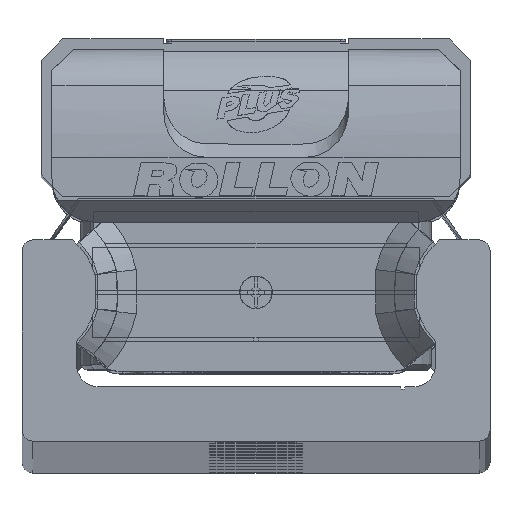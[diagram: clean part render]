
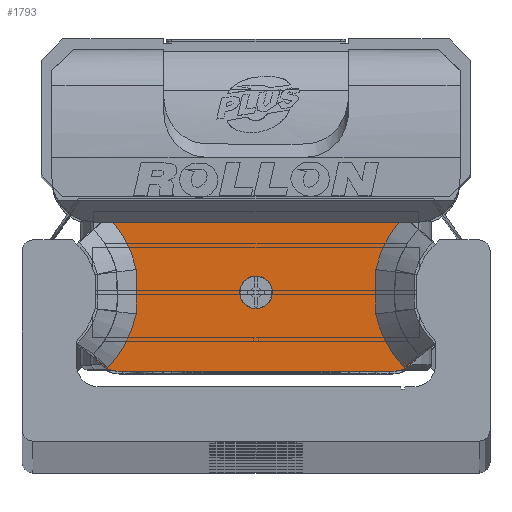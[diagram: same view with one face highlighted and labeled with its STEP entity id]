
A CAD part, top view. The second image highlights one B-rep face of the part: STEP entity #1793.
In plain terms, the highlighted planar face has unit normal (0, 0, 1) as drawn and (0, 0, -1) by its records, which use the part's own axes.
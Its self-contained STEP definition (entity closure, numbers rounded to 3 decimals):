
#1793 = ADVANCED_FACE( '', ( #3872, #3873 ), #3874, .F. );
#3872 = FACE_BOUND( '', #6284, .T. );
#3873 = FACE_OUTER_BOUND( '', #6285, .T. );
#3874 = PLANE( '', #6286 );
#6284 = EDGE_LOOP( '', ( #11210 ) );
#6285 = EDGE_LOOP( '', ( #11211, #11212, #11213, #11214, #11215, #11216, #11217, #11218, #11219, #11220, #11221, #11222 ) );
#6286 = AXIS2_PLACEMENT_3D( '', #11223, #11224, #11225 );
#11210 = ORIENTED_EDGE( '', *, *, #13912, .T. );
#11211 = ORIENTED_EDGE( '', *, *, #14712, .T. );
#11212 = ORIENTED_EDGE( '', *, *, #14028, .F. );
#11213 = ORIENTED_EDGE( '', *, *, #14688, .T. );
#11214 = ORIENTED_EDGE( '', *, *, #14296, .F. );
#11215 = ORIENTED_EDGE( '', *, *, #13768, .T. );
#11216 = ORIENTED_EDGE( '', *, *, #14741, .T. );
#11217 = ORIENTED_EDGE( '', *, *, #14789, .T. );
#11218 = ORIENTED_EDGE( '', *, *, #14790, .T. );
#11219 = ORIENTED_EDGE( '', *, *, #14791, .T. );
#11220 = ORIENTED_EDGE( '', *, *, #14792, .T. );
#11221 = ORIENTED_EDGE( '', *, *, #14745, .T. );
#11222 = ORIENTED_EDGE( '', *, *, #13275, .T. );
#11223 = CARTESIAN_POINT( '', ( 14.9, 7.35, -13.25 ) );
#11224 = DIRECTION( '', ( 0., 0., 1. ) );
#11225 = DIRECTION( '', ( 1., 0., 0. ) );
#13275 = EDGE_CURVE( '', #15907, #15905, #15908, .T. );
#13768 = EDGE_CURVE( '', #15935, #16717, #16719, .T. );
#13912 = EDGE_CURVE( '', #16936, #16936, #16937, .T. );
#14028 = EDGE_CURVE( '', #17102, #16068, #17104, .T. );
#14296 = EDGE_CURVE( '', #15935, #17497, #17498, .T. );
#14688 = EDGE_CURVE( '', #17102, #17497, #18015, .T. );
#14712 = EDGE_CURVE( '', #15905, #16068, #18050, .T. );
#14741 = EDGE_CURVE( '', #16717, #18083, #18085, .T. );
#14745 = EDGE_CURVE( '', #18089, #15907, #18090, .T. );
#14789 = EDGE_CURVE( '', #18083, #18146, #18147, .T. );
#14790 = EDGE_CURVE( '', #18146, #18148, #18149, .T. );
#14791 = EDGE_CURVE( '', #18148, #18150, #18151, .T. );
#14792 = EDGE_CURVE( '', #18150, #18089, #18152, .T. );
#15905 = VERTEX_POINT( '', #19673 );
#15907 = VERTEX_POINT( '', #19676 );
#15908 = B_SPLINE_CURVE_WITH_KNOTS( '', 2, ( #19677, #19678, #19679, #19680, #19681 ), .UNSPECIFIED., .F., .F., ( 3, 2, 3 ), ( 0., 0.5, 1. ), .UNSPECIFIED. );
#15935 = VERTEX_POINT( '', #19722 );
#16068 = VERTEX_POINT( '', #19910 );
#16717 = VERTEX_POINT( '', #20806 );
#16719 = B_SPLINE_CURVE_WITH_KNOTS( '', 1, ( #20809, #20810 ), .UNSPECIFIED., .F., .F., ( 2, 2 ), ( 0., 1. ), .UNSPECIFIED. );
#16936 = VERTEX_POINT( '', #21099 );
#16937 = CIRCLE( '', #21100, 1.5 );
#17102 = VERTEX_POINT( '', #21316 );
#17104 = CIRCLE( '', #21319, 2.5 );
#17497 = VERTEX_POINT( '', #21855 );
#17498 = CIRCLE( '', #21856, 2.5 );
#18015 = LINE( '', #22600, #22601 );
#18050 = B_SPLINE_CURVE_WITH_KNOTS( '', 1, ( #22646, #22647 ), .UNSPECIFIED., .F., .F., ( 2, 2 ), ( 0., 1. ), .UNSPECIFIED. );
#18083 = VERTEX_POINT( '', #22687 );
#18085 = B_SPLINE_CURVE_WITH_KNOTS( '', 2, ( #22690, #22691, #22692, #22693, #22694 ), .UNSPECIFIED., .F., .F., ( 3, 2, 3 ), ( 0., 0.5, 1. ), .UNSPECIFIED. );
#18089 = VERTEX_POINT( '', #22698 );
#18090 = B_SPLINE_CURVE_WITH_KNOTS( '', 2, ( #22699, #22700, #22701 ), .UNSPECIFIED., .F., .F., ( 3, 3 ), ( 0., 1. ), .UNSPECIFIED. );
#18146 = VERTEX_POINT( '', #22777 );
#18147 = B_SPLINE_CURVE_WITH_KNOTS( '', 2, ( #22778, #22779, #22780 ), .UNSPECIFIED., .F., .F., ( 3, 3 ), ( 0., 1. ), .UNSPECIFIED. );
#18148 = VERTEX_POINT( '', #22781 );
#18149 = B_SPLINE_CURVE_WITH_KNOTS( '', 2, ( #22782, #22783, #22784, #22785, #22786 ), .UNSPECIFIED., .F., .F., ( 3, 2, 3 ), ( 0., 0.5, 0.868 ), .UNSPECIFIED. );
#18150 = VERTEX_POINT( '', #22787 );
#18151 = LINE( '', #22788, #22789 );
#18152 = B_SPLINE_CURVE_WITH_KNOTS( '', 2, ( #22790, #22791, #22792, #22793, #22794 ), .UNSPECIFIED., .F., .F., ( 3, 2, 3 ), ( 0.133, 0.5, 1. ), .UNSPECIFIED. );
#19673 = CARTESIAN_POINT( '', ( 13.628, -6.965, -13.25 ) );
#19676 = CARTESIAN_POINT( '', ( 11.012, -2.045, -13.25 ) );
#19677 = CARTESIAN_POINT( '', ( 11.012, -2.045, -13.25 ) );
#19678 = CARTESIAN_POINT( '', ( 11.301, -3.43, -13.25 ) );
#19679 = CARTESIAN_POINT( '', ( 11.972, -4.69, -13.25 ) );
#19680 = CARTESIAN_POINT( '', ( 12.642, -5.95, -13.25 ) );
#19681 = CARTESIAN_POINT( '', ( 13.628, -6.965, -13.25 ) );
#19722 = CARTESIAN_POINT( '', ( -14.904, -5.718, -13.25 ) );
#19910 = CARTESIAN_POINT( '', ( 14.906, -5.717, -13.25 ) );
#20806 = CARTESIAN_POINT( '', ( -13.628, -6.965, -13.25 ) );
#20809 = CARTESIAN_POINT( '', ( -14.915, -5.713, -13.25 ) );
#20810 = CARTESIAN_POINT( '', ( -13.628, -6.965, -13.25 ) );
#21099 = CARTESIAN_POINT( '', ( 1.5, -0.05, -13.25 ) );
#21100 = AXIS2_PLACEMENT_3D( '', #24770, #24771, #24772 );
#21316 = CARTESIAN_POINT( '', ( 12.58, -7.3, -13.25 ) );
#21319 = AXIS2_PLACEMENT_3D( '', #24913, #24914, #24915 );
#21855 = CARTESIAN_POINT( '', ( -12.58, -7.3, -13.25 ) );
#21856 = AXIS2_PLACEMENT_3D( '', #25255, #25256, #25257 );
#22600 = CARTESIAN_POINT( '', ( 12.58, -7.3, -13.25 ) );
#22601 = VECTOR( '', #25739, 1000. );
#22646 = CARTESIAN_POINT( '', ( 13.628, -6.965, -13.25 ) );
#22647 = CARTESIAN_POINT( '', ( 14.9, -5.728, -13.25 ) );
#22687 = CARTESIAN_POINT( '', ( -11.012, -2.045, -13.25 ) );
#22690 = CARTESIAN_POINT( '', ( -13.628, -6.965, -13.25 ) );
#22691 = CARTESIAN_POINT( '', ( -12.638, -5.946, -13.25 ) );
#22692 = CARTESIAN_POINT( '', ( -11.97, -4.691, -13.25 ) );
#22693 = CARTESIAN_POINT( '', ( -11.303, -3.437, -13.25 ) );
#22694 = CARTESIAN_POINT( '', ( -11.012, -2.045, -13.25 ) );
#22698 = CARTESIAN_POINT( '', ( 11.012, 2.045, -13.25 ) );
#22699 = CARTESIAN_POINT( '', ( 11.012, 2.045, -13.25 ) );
#22700 = CARTESIAN_POINT( '', ( 10.888, 0., -13.25 ) );
#22701 = CARTESIAN_POINT( '', ( 11.012, -2.045, -13.25 ) );
#22777 = CARTESIAN_POINT( '', ( -11.012, 2.045, -13.25 ) );
#22778 = CARTESIAN_POINT( '', ( -11.012, -2.045, -13.25 ) );
#22779 = CARTESIAN_POINT( '', ( -10.888, 0., -13.25 ) );
#22780 = CARTESIAN_POINT( '', ( -11.012, 2.045, -13.25 ) );
#22781 = CARTESIAN_POINT( '', ( -13.119, 6.4, -13.25 ) );
#22782 = CARTESIAN_POINT( '', ( -11.012, 2.045, -13.25 ) );
#22783 = CARTESIAN_POINT( '', ( -11.302, 3.432, -13.25 ) );
#22784 = CARTESIAN_POINT( '', ( -11.967, 4.685, -13.25 ) );
#22785 = CARTESIAN_POINT( '', ( -12.456, 5.606, -13.25 ) );
#22786 = CARTESIAN_POINT( '', ( -13.119, 6.4, -13.25 ) );
#22787 = CARTESIAN_POINT( '', ( 13.12, 6.4, -13.25 ) );
#22788 = CARTESIAN_POINT( '', ( 14.9, 6.4, -13.25 ) );
#22789 = VECTOR( '', #25854, 1000. );
#22790 = CARTESIAN_POINT( '', ( 13.119, 6.4, -13.25 ) );
#22791 = CARTESIAN_POINT( '', ( 12.459, 5.608, -13.25 ) );
#22792 = CARTESIAN_POINT( '', ( 11.968, 4.684, -13.25 ) );
#22793 = CARTESIAN_POINT( '', ( 11.301, 3.427, -13.25 ) );
#22794 = CARTESIAN_POINT( '', ( 11.012, 2.045, -13.25 ) );
#24770 = CARTESIAN_POINT( '', ( 0., -0.05, -13.25 ) );
#24771 = DIRECTION( '', ( 0., 0., 1. ) );
#24772 = DIRECTION( '', ( 1., 0., 0. ) );
#24913 = CARTESIAN_POINT( '', ( 12.58, -4.8, -13.25 ) );
#24914 = DIRECTION( '', ( 0., 0., 1. ) );
#24915 = DIRECTION( '', ( 1., 0., 0. ) );
#25255 = CARTESIAN_POINT( '', ( -12.58, -4.8, -13.25 ) );
#25256 = DIRECTION( '', ( 0., 0., 1. ) );
#25257 = DIRECTION( '', ( 1., 0., 0. ) );
#25739 = DIRECTION( '', ( -1., 0., 0. ) );
#25854 = DIRECTION( '', ( 1., 0., 0. ) );
